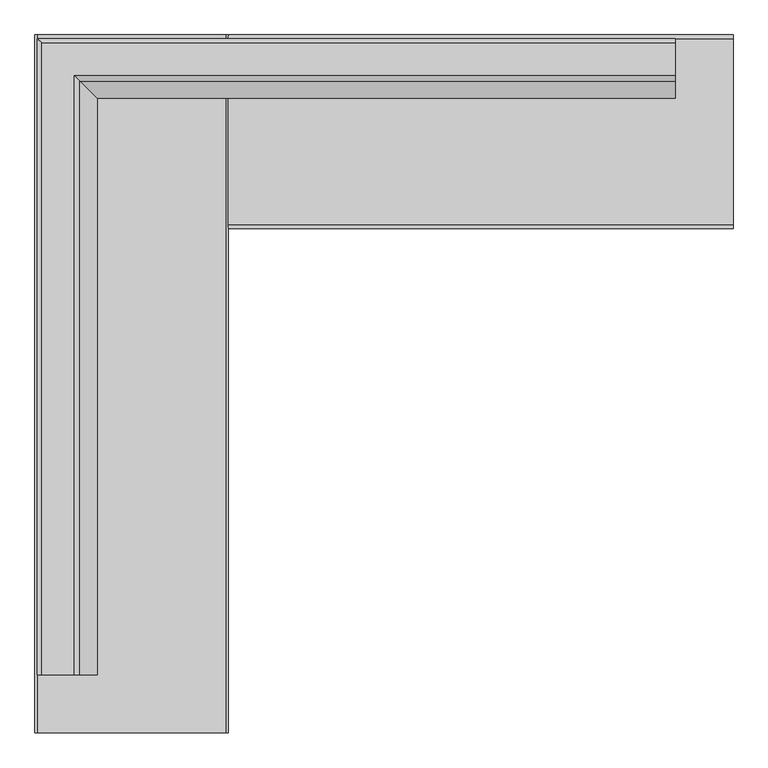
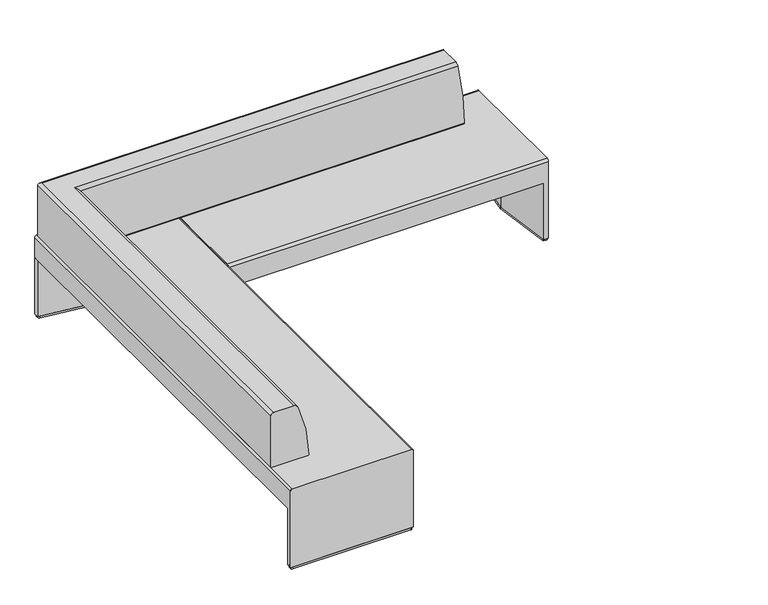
"""IFC4 building model written with IfcOpenShell, lengths in millimetres: furniture geometry, Steelcase Coalesse - Together  - Seating - Bench - Left Corner : 8in Back Offset - 96.5D x 96.5W."""

from ifc_helpers import new_model, si_unit, point, frame, frame_2d, origin, origin_with_axes, place, context, project, spatial, polyline, circle_curve, ellipse_curve, trimmed, segment, composite_curve, outline, extrude, source, transform, mapped, element, save
from ifc_brep_helpers import plane_surface, cylinder_surface, advanced_brep


def furniture_526abeda(model_context):
    return source(origin(), model_context, "Body", "SolidModel", [
        extrude(outline(composite_curve([segment(polyline([(1701.7260341, 342.7173042), (1745.4494541, 668.3404046)]), True, "CONTINUOUS"), segment(trimmed(circle_curve(frame_2d((1752.4178665, 667.4047129)), 7.0309522), [point((1745.4494541, 668.3404046))], [point((1752.4121236, 674.4356628))], False, "CARTESIAN"), True, "CONTINUOUS"), segment(polyline([(1752.4121236, 674.4356628), (1764.935141, 674.4458915)]), True, "CONTINUOUS"), segment(trimmed(circle_curve(frame_2d((1764.9403277, 668.0958937)), 6.35), [point((1764.935141, 674.4458915))], [point((1771.2903256, 668.1010803))], False, "CARTESIAN"), True, "CONTINUOUS"), segment(polyline([(1771.2903256, 668.1010803), (1771.8258418, 12.4700002)]), True, "CONTINUOUS"), segment(trimmed(circle_curve(frame_2d((1765.4758439, 12.4648135)), 6.35), [point((1771.8258418, 12.4700002))], [point((1765.4810305, 6.1148157))], False, "CARTESIAN"), True, "CONTINUOUS"), segment(polyline([(1765.4810305, 6.1148157), (1753.0237657, 6.1046406)]), True, "CONTINUOUS"), segment(trimmed(circle_curve(frame_2d((1753.0185791, 12.4546385)), 6.35), [point((1753.0237657, 6.1046406))], [point((1746.7264214, 11.5995062))], False, "CARTESIAN"), True, "CONTINUOUS"), segment(polyline([(1746.7264214, 11.5995062), (1701.7260341, 342.7173042)]), True, "CONTINUOUS")], self_intersect=False)), origin_with_axes(), (0.0, 0.0, 1.0), 12.7976677),
        extrude(outline(composite_curve([segment(polyline([(-342.242834, 610.6565573), (-667.8301127, 654.6459299)]), True, "CONTINUOUS"), segment(trimmed(circle_curve(frame_2d((-666.8887296, 661.6135757)), 7.0309522), [point((-667.8301127, 654.6459299))], [point((-673.9196818, 661.6135757))], False, "CARTESIAN"), True, "CONTINUOUS"), segment(polyline([(-673.9196818, 661.6135757), (-673.9196818, 674.1365973)]), True, "CONTINUOUS"), segment(trimmed(circle_curve(frame_2d((-667.5696818, 674.1365973)), 6.35), [point((-673.9196818, 674.1365973))], [point((-667.5696818, 680.4865973))], False, "CARTESIAN"), True, "CONTINUOUS"), segment(polyline([(-667.5696818, 680.4865973), (-11.938383, 680.4865973)]), True, "CONTINUOUS"), segment(trimmed(circle_curve(frame_2d((-11.938383, 674.1365973)), 6.35), [point((-11.938383, 680.4865973))], [point((-5.588383, 674.1365973))], False, "CARTESIAN"), True, "CONTINUOUS"), segment(polyline([(-5.588383, 674.1365973), (-5.588383, 661.6793283)]), True, "CONTINUOUS"), segment(trimmed(circle_curve(frame_2d((-11.938383, 661.6793283)), 6.35), [point((-5.588383, 661.6793283))], [point((-11.0883904, 655.3864742))], False, "CARTESIAN"), True, "CONTINUOUS"), segment(polyline([(-11.0883904, 655.3864742), (-342.242834, 610.6565573)]), True, "CONTINUOUS")], self_intersect=False)), origin_with_axes(), (0.0, 0.0, 1.0), 12.7976677),
        extrude(outline(composite_curve([segment(polyline([(-342.242834, -1700.1204812), (-11.0883904, -1744.8503981)]), True, "CONTINUOUS"), segment(trimmed(circle_curve(frame_2d((-11.938383, -1751.1432522)), 6.35), [point((-11.0883904, -1744.8503981))], [point((-5.588383, -1751.1432522))], False, "CARTESIAN"), True, "CONTINUOUS"), segment(polyline([(-5.588383, -1751.1432522), (-5.588383, -1763.6005212)]), True, "CONTINUOUS"), segment(trimmed(circle_curve(frame_2d((-11.938383, -1763.6005212)), 6.35), [point((-5.588383, -1763.6005212))], [point((-11.938383, -1769.9505212))], False, "CARTESIAN"), True, "CONTINUOUS"), segment(polyline([(-11.938383, -1769.9505212), (-667.5696818, -1769.9505212)]), True, "CONTINUOUS"), segment(trimmed(circle_curve(frame_2d((-667.5696818, -1763.6005212)), 6.35), [point((-667.5696818, -1769.9505212))], [point((-673.9196818, -1763.6005212))], False, "CARTESIAN"), True, "CONTINUOUS"), segment(polyline([(-673.9196818, -1763.6005212), (-673.9196818, -1751.0774996)]), True, "CONTINUOUS"), segment(trimmed(circle_curve(frame_2d((-666.8887296, -1751.0774996)), 7.0309522), [point((-673.9196818, -1751.0774996))], [point((-667.8301127, -1744.1098538))], False, "CARTESIAN"), True, "CONTINUOUS"), segment(polyline([(-667.8301127, -1744.1098538), (-342.242834, -1700.1204812)]), True, "CONTINUOUS")], self_intersect=False)), origin_with_axes(), (0.0, 0.0, 1.0), 12.7976677),
        advanced_brep(
        [(1771.7783223, 12.7, 471.2287949), (1771.7783223, 0.0, 458.5287949), (1771.7783223, 0.0, 12.7976677), (1771.7783223, 680.4865973, 12.7976677), (1771.7783223, 680.4865973, 458.5287949), (1771.7783223, 667.7865973, 471.2287949), (0.0, 12.7, 471.2287949), (0.0, 667.7865973, 471.2287949), (0.0, 680.4865973, 458.5287949), (0.0, 680.4865973, 343.3718099), (0.0, 0.0, 343.3718099), (0.0, 0.0, 458.5287949), (1745.6026241, 0.0, 343.3718099), (1745.6015424, 0.0, 12.7976677), (1745.9085944, 680.4865973, 343.3718099), (1701.2700419, 337.8527218, 343.3718099), (1745.9096556, 680.4865973, 12.7976677), (1701.2700419, 337.8527218, 12.7976677)],
        [
            (0, 1, circle_curve(frame((1771.7783223, 12.7, 458.5287949), z_axis=(1.0, 0.0, 0.0), x_axis=(0.0, -1.0, 0.0)), 12.7)),
            (1, 2),
            (2, 3),
            (3, 4),
            (4, 5, circle_curve(frame((1771.7783223, 667.7865973, 458.5287949), z_axis=(1.0, 0.0, 0.0), x_axis=(0.0, -1.0, 0.0)), 12.7)),
            (5, 0),
            (6, 7),
            (7, 8, circle_curve(frame((0.0, 667.7865973, 458.5287949), z_axis=(-1.0, 0.0, 0.0), x_axis=(0.0, -1.0, 0.0)), 12.7)),
            (8, 9),
            (9, 10),
            (10, 11),
            (11, 6, circle_curve(frame((0.0, 12.7, 458.5287949), z_axis=(-1.0, 0.0, 0.0), x_axis=(0.0, -1.0, 0.0)), 12.7)),
            (0, 6),
            (11, 1),
            (10, 12),
            (12, 13),
            (13, 2),
            (9, 14),
            (14, 15),
            (15, 12),
            (3, 16),
            (16, 14),
            (8, 4),
            (7, 5),
            (17, 16),
            (13, 17),
            (15, 17),
        ],
        [
            plane_surface(frame((1771.7783223, 0.0, 458.5287949), z_axis=(1.0, 0.0, 0.0), x_axis=(0.0, 0.0, -1.0))),
            plane_surface(frame((0.0, 0.0, 458.5287949), z_axis=(-1.0, 0.0, 0.0), x_axis=(0.0, 0.0, 1.0))),
            cylinder_surface(frame((0.0, 12.7, 458.5287949), z_axis=(1.0, 0.0, 0.0), x_axis=(0.0, -1.0, 0.0)), 12.7),
            plane_surface(frame((1771.7783223, 0.0, 458.5287949), z_axis=(0.0, -1.0, 0.0), x_axis=(-1.0, 0.0, 0.0))),
            plane_surface(frame((1771.7783223, 0.0, 343.3718099), z_axis=(0.0, 0.0, -1.0), x_axis=(-1.0, 0.0, 0.0))),
            plane_surface(frame((1771.7783223, 680.4865973, 343.3718099), z_axis=(0.0, 1.0, 0.0), x_axis=(-1.0, 0.0, 0.0))),
            cylinder_surface(frame((0.0, 667.7865973, 458.5287949), z_axis=(1.0, 0.0, 0.0), x_axis=(0.0, -1.0, 0.0)), 12.7),
            plane_surface(frame((1771.7783223, 667.7865973, 471.2287949), z_axis=(0.0, 0.0, 1.0), x_axis=(-1.0, 0.0, 0.0))),
            plane_surface(frame((1701.2700419, 337.8527218, 12.7976677), z_axis=(0.0, 0.0, -1.0), x_axis=(-0.13010336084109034, 0.9915004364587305, 0.0))),
            plane_surface(frame((1701.2700419, 337.8527218, 343.3718099), z_axis=(-0.9915004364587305, -0.13010336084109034, 0.0), x_axis=(0.0, 0.0, -1.0))),
            plane_surface(frame((1745.9096556, 680.4947435, 343.3718099), z_axis=(-0.9916200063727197, 0.1291888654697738, 0.0), x_axis=(0.0, 0.0, -1.0))),
        ],
        [
            (0, [[1, 2, 3, 4, 5, 6]]),
            (1, [[7, 8, 9, 10, 11, 12]]),
            (2, [[-1, 13, -12, 14]]),
            (3, [[-2, -14, -11, 15, 16, 17]]),
            (4, [[-10, 18, 19, 20, -15]]),
            (5, [[-4, 21, 22, -18, -9, 23]]),
            (6, [[-5, -23, -8, 24]]),
            (7, [[-6, -24, -7, -13]]),
            (8, [[25, -21, -3, -17, 26]]),
            (9, [[-26, -16, -20, 27]]),
            (10, [[-25, -27, -19, -22]]),
        ],
    ),
        advanced_brep(
        [(0.0, -1770.8336068, 462.8584293), (-8.3703656, -1770.8336068, 471.2287949), (-669.1616777, -1770.8336068, 471.2287949), (-679.3216777, -1770.8336068, 461.0687949), (-679.3216777, -1770.8336068, 12.7976677), (0.0, -1770.8336068, 12.7976677), (0.0, 680.2663932, 343.3718099), (-679.3216777, 680.2663932, 343.3718099), (-679.3216777, 680.2663932, 461.0687949), (-669.1616777, 680.2663932, 471.2287949), (-8.3703656, 680.2663932, 471.2287949), (0.0, 680.2663932, 462.8584293), (0.0, -1744.8418934, 12.7976677), (0.0, -1744.8418934, 343.3718099), (-679.3216777, -1744.8418934, 343.3718099), (-679.3216777, -1744.8418934, 12.7976677), (-337.6103648, -1700.4329621, 343.3718099), (-337.6103648, -1700.4329621, 12.7976677)],
        [
            (0, 1, circle_curve(frame((-8.3703656, -1770.8336068, 462.8584293), z_axis=(0.0, -1.0, 0.0), x_axis=(1.0, 0.0, 0.0)), 8.3703656)),
            (1, 2),
            (2, 3, circle_curve(frame((-669.1616777, -1770.8336068, 461.0687949), z_axis=(0.0, -1.0, 0.0), x_axis=(1.0, 0.0, 0.0)), 10.16)),
            (3, 4),
            (4, 5),
            (5, 0),
            (6, 7),
            (7, 8),
            (8, 9, circle_curve(frame((-669.1616777, 680.2663932, 461.0687949), z_axis=(0.0, 1.0, 0.0), x_axis=(1.0, 0.0, 0.0)), 10.16)),
            (9, 10),
            (10, 11, circle_curve(frame((-8.3703656, 680.2663932, 462.8584293), z_axis=(0.0, 1.0, 0.0), x_axis=(1.0, 0.0, 0.0)), 8.3703656)),
            (11, 6),
            (5, 12),
            (12, 13),
            (13, 6),
            (11, 0),
            (10, 1),
            (9, 2),
            (8, 3),
            (7, 14),
            (14, 15),
            (15, 4),
            (13, 16),
            (16, 14),
            (17, 12),
            (15, 17),
            (16, 17),
        ],
        [
            plane_surface(frame((0.0, -1770.8336068, 432.906134), z_axis=(0.0, -1.0, 0.0), x_axis=(0.0, 0.0, 1.0))),
            plane_surface(frame((0.0, 680.2663932, 432.906134), z_axis=(0.0, 1.0, 0.0), x_axis=(0.0, 0.0, -1.0))),
            plane_surface(frame((0.0, -1770.8336068, 343.3718099), z_axis=(1.0, 0.0, 0.0), x_axis=(0.0, 1.0, 0.0))),
            cylinder_surface(frame((-8.3703656, 680.2663932, 462.8584293), z_axis=(0.0, -1.0, 0.0), x_axis=(1.0, 0.0, 0.0)), 8.3703656),
            plane_surface(frame((-8.3703656, -1770.8336068, 471.2287949), z_axis=(0.0, 0.0, 1.0), x_axis=(0.0, 1.0, 0.0))),
            cylinder_surface(frame((-669.1616777, 680.2663932, 461.0687949), z_axis=(0.0, -1.0, 0.0), x_axis=(1.0, 0.0, 0.0)), 10.16),
            plane_surface(frame((-679.3216777, -1770.8336068, 461.0687949), z_axis=(-1.0, 0.0, 0.0), x_axis=(0.0, 1.0, 0.0))),
            plane_surface(frame((-679.3216777, -1770.8336068, 343.3718099), z_axis=(0.0, 0.0, -1.0), x_axis=(0.0, 1.0, 0.0))),
            plane_surface(frame((-679.3216777, -1744.8418934, 12.7976677), z_axis=(0.0, 0.0, -1.0), x_axis=(0.9916606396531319, 0.12887659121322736, 0.0))),
            plane_surface(frame((-337.6103648, -1700.4329621, 343.3718099), z_axis=(-0.12887659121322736, 0.9916606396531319, 0.0), x_axis=(0.0, 0.0, -1.0))),
            plane_surface(frame((0.0, -1744.8418934, 343.3718099), z_axis=(0.13041558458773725, 0.9914594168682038, 0.0), x_axis=(0.0, 0.0, -1.0))),
        ],
        [
            (0, [[1, 2, 3, 4, 5, 6]]),
            (1, [[7, 8, 9, 10, 11, 12]]),
            (2, [[-6, 13, 14, 15, -12, 16]]),
            (3, [[-1, -16, -11, 17]]),
            (4, [[-2, -17, -10, 18]]),
            (5, [[-3, -18, -9, 19]]),
            (6, [[-4, -19, -8, 20, 21, 22]]),
            (7, [[-7, -15, 23, 24, -20]]),
            (8, [[25, -13, -5, -22, 26]]),
            (9, [[-26, -21, -24, 27]]),
            (10, [[-25, -27, -23, -14]]),
        ],
    ),
        extrude(outline(polyline([(-337.6103648, 610.0859526), (-679.4232219, 654.5080806), (-679.4232219, 680.4865973), (0.0, 680.4865973), (0.0, 654.4948838), (-337.6103648, 610.0859526)])), frame((0.0, 0.0, 12.7976677), z_axis=(0.0, 0.0, 1.0), x_axis=(1.0, 0.0, 0.0)), (0.0, 0.0, 1.0), 330.5741422),
        advanced_brep(
        [(-542.7579952, -1567.6336068, 789.6908243), (-654.9720681, -1567.6336068, 789.6908243), (-670.6127132, -1567.6336068, 774.0501793), (-670.6127132, -1567.6336068, 471.9907949), (-669.8507132, -1567.6336068, 471.2287949), (-467.2326916, -1567.6336068, 471.2287949), (-460.8827115, -1567.6336068, 477.5628851), (-521.8690853, -1567.6336068, 775.9296487), (-542.7579952, 539.2094278, 789.6908243), (1568.5783223, 539.2094278, 789.6908243), (1568.5783223, 651.4235007, 789.6908243), (-654.9720681, 651.4235007, 789.6908243), (-670.6127132, 667.0641458, 774.0501793), (-670.6127132, 667.0641458, 471.9907949), (-669.8507132, 666.3021458, 471.2287949), (1568.5783223, 666.3021458, 471.2287949), (1568.5783223, 463.6841242, 471.2287949), (-467.2326916, 463.6841242, 471.2287949), (-460.8827115, 457.3341441, 477.5628851), (-521.8690853, 518.3205179, 775.9296487), (1568.5783223, 518.3205179, 775.9296487), (1568.5783223, 457.3341441, 477.5628851), (1568.5783223, 667.0641458, 471.9907949), (1568.5783223, 667.0641458, 774.0501793)],
        [
            (0, 1),
            (1, 2, circle_curve(frame((-654.9720681, -1567.6336068, 774.0501793), z_axis=(0.0, -1.0, 0.0), x_axis=(-1.0, 0.0, 0.0)), 15.6406451)),
            (2, 3),
            (3, 4, circle_curve(frame((-669.8507132, -1567.6336068, 471.9907949), z_axis=(0.0, -1.0, 0.0), x_axis=(-1.0, 0.0, 0.0)), 0.762)),
            (4, 5),
            (5, 6, circle_curve(frame((-467.2326916, -1567.6336068, 477.5787949), z_axis=(0.0, -1.0, 0.0), x_axis=(-1.0, 0.0, 0.0)), 6.35)),
            (6, 7, circle_curve(frame((-1212.0260917, -1567.6336068, 479.4448666), z_axis=(0.0, -1.0, 0.0), x_axis=(-1.0, 0.0, 0.0)), 751.1457378)),
            (7, 0, circle_curve(frame((-542.7579952, -1567.6336068, 766.9559749), z_axis=(0.0, -1.0, 0.0), x_axis=(-1.0, 0.0, 0.0)), 22.7348495)),
            (0, 8),
            (8, 9),
            (9, 10),
            (10, 11),
            (11, 1),
            (11, 12, ellipse_curve(frame((-654.9720681, 651.4235007, 774.0501793), z_axis=(-0.7071067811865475, -0.7071067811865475, 0.0), x_axis=(0.7071067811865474, -0.7071067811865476, 0.0)), 22.1192124, 15.6406451)),
            (12, 2),
            (12, 13),
            (13, 3),
            (13, 14, ellipse_curve(frame((-669.8507132, 666.3021458, 471.9907949), z_axis=(-0.7071067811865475, -0.7071067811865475, 0.0), x_axis=(0.7071067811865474, -0.7071067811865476, 0.0)), 1.0776307, 0.762)),
            (14, 4),
            (14, 15),
            (15, 16),
            (16, 17),
            (17, 5),
            (17, 18, ellipse_curve(frame((-467.2326916, 463.6841242, 477.5787949), z_axis=(-0.7071067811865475, -0.7071067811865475, 0.0), x_axis=(0.7071067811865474, -0.7071067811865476, 0.0)), 8.9802561, 6.35)),
            (18, 6),
            (18, 19, ellipse_curve(frame((-1212.0260917, 1208.4775243, 479.4448666), z_axis=(-0.7071067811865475, -0.7071067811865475, 0.0), x_axis=(0.7071067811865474, -0.7071067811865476, 0.0)), 1062.2804897, 751.1457378)),
            (19, 7),
            (19, 8, ellipse_curve(frame((-542.7579952, 539.2094278, 766.9559749), z_axis=(-0.7071067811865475, -0.7071067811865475, 0.0), x_axis=(0.7071067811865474, -0.7071067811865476, 0.0)), 32.1519324, 22.7348495)),
            (9, 20, circle_curve(frame((1568.5783223, 539.2094278, 766.9559749), z_axis=(1.0, 0.0, 0.0), x_axis=(0.0, 1.0, 0.0)), 22.7348495)),
            (20, 21, circle_curve(frame((1568.5783223, 1208.4775243, 479.4448666), z_axis=(1.0, 0.0, 0.0), x_axis=(0.0, 1.0, 0.0)), 751.1457378)),
            (21, 16, circle_curve(frame((1568.5783223, 463.6841242, 477.5787949), z_axis=(1.0, 0.0, 0.0), x_axis=(0.0, 1.0, 0.0)), 6.35)),
            (15, 22, circle_curve(frame((1568.5783223, 666.3021458, 471.9907949), z_axis=(1.0, 0.0, 0.0), x_axis=(0.0, 1.0, 0.0)), 0.762)),
            (22, 23),
            (23, 10, circle_curve(frame((1568.5783223, 651.4235007, 774.0501793), z_axis=(1.0, 0.0, 0.0), x_axis=(0.0, 1.0, 0.0)), 15.6406451)),
            (23, 12),
            (22, 13),
            (21, 18),
            (20, 19),
        ],
        [
            plane_surface(frame((-460.0482755, -1567.6336068, 0.0), z_axis=(0.0, -1.0, 0.0), x_axis=(0.0, 0.0, 1.0))),
            plane_surface(frame((-542.7579952, -1567.6336068, 789.6908243), z_axis=(0.0, 0.0, 1.0), x_axis=(0.0, 1.0, 0.0))),
            cylinder_surface(frame((-654.9720681, -1567.6336068, 774.0501793), z_axis=(0.0, -1.0, 0.0), x_axis=(-1.0, 0.0, 0.0)), 15.6406451),
            plane_surface(frame((-670.6127132, -1567.6336068, 774.0501793), z_axis=(-1.0, 0.0, 0.0), x_axis=(0.0, 1.0, 0.0))),
            cylinder_surface(frame((-669.8507132, -1567.6336068, 471.9907949), z_axis=(0.0, -1.0, 0.0), x_axis=(-1.0, 0.0, 0.0)), 0.762),
            plane_surface(frame((-669.8507132, -1567.6336068, 471.2287949), z_axis=(0.0, 0.0, -1.0), x_axis=(0.0, 1.0, 0.0))),
            cylinder_surface(frame((-467.2326916, -1567.6336068, 477.5787949), z_axis=(0.0, -1.0, 0.0), x_axis=(-1.0, 0.0, 0.0)), 6.35),
            cylinder_surface(frame((-1212.0260917, -1567.6336068, 479.4448666), z_axis=(0.0, -1.0, 0.0), x_axis=(-1.0, 0.0, 0.0)), 751.1457378),
            cylinder_surface(frame((-542.7579952, -1567.6336068, 766.9559749), z_axis=(0.0, -1.0, 0.0), x_axis=(-1.0, 0.0, 0.0)), 22.7348495),
            plane_surface(frame((1568.5783223, 456.4997081, 0.0), z_axis=(1.0, 0.0, 0.0), x_axis=(0.0, 0.0, 1.0))),
            cylinder_surface(frame((-460.0482755, 651.4235007, 774.0501793), z_axis=(-1.0, 0.0, 0.0), x_axis=(0.0, 1.0, 0.0)), 15.6406451),
            plane_surface(frame((-670.6127132, 667.0641458, 774.0501793), z_axis=(0.0, 1.0, 0.0), x_axis=(1.0, 0.0, 0.0))),
            cylinder_surface(frame((-460.0482755, 666.3021458, 471.9907949), z_axis=(-1.0, 0.0, 0.0), x_axis=(0.0, 1.0, 0.0)), 0.762),
            cylinder_surface(frame((-460.0482755, 463.6841242, 477.5787949), z_axis=(-1.0, 0.0, 0.0), x_axis=(0.0, 1.0, 0.0)), 6.35),
            cylinder_surface(frame((-460.0482755, 1208.4775243, 479.4448666), z_axis=(-1.0, 0.0, 0.0), x_axis=(0.0, 1.0, 0.0)), 751.1457378),
            cylinder_surface(frame((-460.0482755, 539.2094278, 766.9559749), z_axis=(-1.0, 0.0, 0.0), x_axis=(0.0, 1.0, 0.0)), 22.7348495),
        ],
        [
            (0, [[1, 2, 3, 4, 5, 6, 7, 8]]),
            (1, [[-1, 9, 10, 11, 12, 13]]),
            (2, [[-2, -13, 14, 15]]),
            (3, [[-3, -15, 16, 17]]),
            (4, [[-4, -17, 18, 19]]),
            (5, [[-5, -19, 20, 21, 22, 23]]),
            (6, [[-6, -23, 24, 25]]),
            (7, [[-7, -25, 26, 27]]),
            (8, [[-8, -27, 28, -9]]),
            (9, [[29, 30, 31, -21, 32, 33, 34, -11]]),
            (10, [[-14, -12, -34, 35]]),
            (11, [[-16, -35, -33, 36]]),
            (12, [[-18, -36, -32, -20]]),
            (13, [[-24, -22, -31, 37]]),
            (14, [[-26, -37, -30, 38]]),
            (15, [[-28, -38, -29, -10]]),
        ],
    ),
    ])


if __name__ == "__main__":
    model = new_model("IFC4")
    model_context = context("Model", 3, world=origin())
    ifc_project = project(units=[si_unit("LENGTHUNIT", "METRE", prefix="MILLI")], contexts=[model_context])
    site = spatial("IfcSite", under=ifc_project)
    building = spatial("IfcBuilding", under=site)
    placement = place(None, origin())
    furniture_shape = furniture_526abeda(model_context)
    element("IfcFurniture", 1, ObjectType="Steelcase Coalesse - Together  - Seating - Bench - Left Corner : 8in Back Offset - 96.5D x 96.5W", at=placement, inside=building, context=model_context, shape_type="MappedRepresentation", body=[
        mapped(furniture_shape, transform((0.0, 0.0, 0.0), x_axis=(1.0, 0.0, 0.0), y_axis=(0.0, 1.0, 0.0), z_axis=(0.0, 0.0, 1.0))),
    ])
    save(model, "model.ifc")
